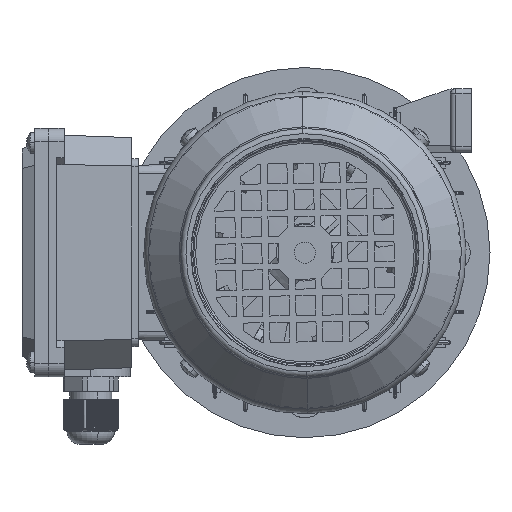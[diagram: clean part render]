
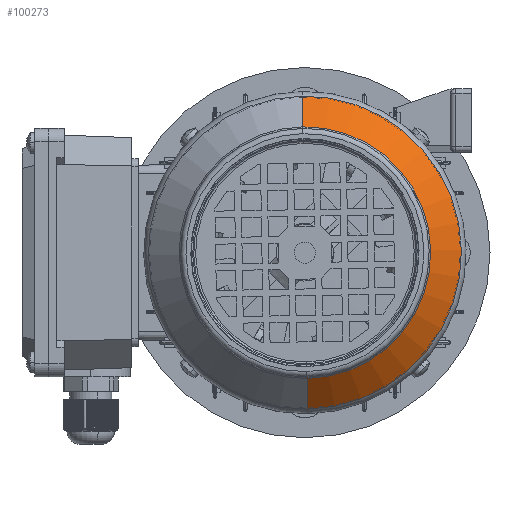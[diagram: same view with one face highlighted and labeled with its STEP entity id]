
A CAD part, left-side view. The second image highlights one B-rep face of the part: STEP entity #100273.
In plain terms, the highlighted conical face has half-angle 45 degrees and reference radius 47.586 mm.
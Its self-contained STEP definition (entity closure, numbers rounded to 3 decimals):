
#205 = ORIENTED_EDGE ( 'NONE', *, *, #122915, .T. ) ;
#2655 = DIRECTION ( 'NONE',  ( -0.707, 0., -0.707 ) ) ;
#5573 = CARTESIAN_POINT ( 'NONE',  ( 96.807, 0., -59.193 ) ) ;
#11064 = AXIS2_PLACEMENT_3D ( 'NONE', #106114, #93436, #80772 ) ;
#12087 = VERTEX_POINT ( 'NONE', #96818 ) ;
#15311 = CARTESIAN_POINT ( 'NONE',  ( 108.414, 0., -47.586 ) ) ;
#16189 = EDGE_LOOP ( 'NONE', ( #106566, #205, #96790, #55704 ) ) ;
#21759 = LINE ( 'NONE', #107351, #41678 ) ;
#21761 = VECTOR ( 'NONE', #2655, 1000. ) ;
#22283 = EDGE_CURVE ( 'NONE', #101060, #56703, #21759, .T. ) ;
#24045 = AXIS2_PLACEMENT_3D ( 'NONE', #98955, #86307, #73629 ) ;
#27182 = EDGE_CURVE ( 'NONE', #77855, #56703, #115337, .T. ) ;
#27971 = LINE ( 'NONE', #15311, #21761 ) ;
#40007 = FACE_OUTER_BOUND ( 'NONE', #16189, .T. ) ;
#41678 = VECTOR ( 'NONE', #94680, 1000. ) ;
#49571 = EDGE_CURVE ( 'NONE', #12087, #77855, #27971, .T. ) ;
#52295 = CONICAL_SURFACE ( 'NONE', #24045, 47.586, 0.785 ) ;
#55704 = ORIENTED_EDGE ( 'NONE', *, *, #27182, .F. ) ;
#56703 = VERTEX_POINT ( 'NONE', #57261 ) ;
#57261 = CARTESIAN_POINT ( 'NONE',  ( 96.807, 0., 59.193 ) ) ;
#73629 = DIRECTION ( 'NONE',  ( 0., 0., 1. ) ) ;
#73861 = DIRECTION ( 'NONE',  ( 0., 0., 1. ) ) ;
#77855 = VERTEX_POINT ( 'NONE', #5573 ) ;
#79644 = AXIS2_PLACEMENT_3D ( 'NONE', #111806, #86537, #73861 ) ;
#80772 = DIRECTION ( 'NONE',  ( 0., 0., 1. ) ) ;
#86307 = DIRECTION ( 'NONE',  ( -1., 0., 0. ) ) ;
#86537 = DIRECTION ( 'NONE',  ( -1., 0., 0. ) ) ;
#87519 = CARTESIAN_POINT ( 'NONE',  ( 108.414, 0., 47.586 ) ) ;
#93436 = DIRECTION ( 'NONE',  ( -1., 0., 0. ) ) ;
#94186 = CIRCLE ( 'NONE', #79644, 47.586 ) ;
#94680 = DIRECTION ( 'NONE',  ( -0.707, 0., 0.707 ) ) ;
#96790 = ORIENTED_EDGE ( 'NONE', *, *, #22283, .T. ) ;
#96818 = CARTESIAN_POINT ( 'NONE',  ( 108.414, 0., -47.586 ) ) ;
#98955 = CARTESIAN_POINT ( 'NONE',  ( 108.414, 0., 0. ) ) ;
#100273 = ADVANCED_FACE ( 'NONE', ( #40007 ), #52295, .T. ) ;
#101060 = VERTEX_POINT ( 'NONE', #87519 ) ;
#106114 = CARTESIAN_POINT ( 'NONE',  ( 96.807, 0., 0. ) ) ;
#106566 = ORIENTED_EDGE ( 'NONE', *, *, #49571, .F. ) ;
#107351 = CARTESIAN_POINT ( 'NONE',  ( 108.414, 0., 47.586 ) ) ;
#111806 = CARTESIAN_POINT ( 'NONE',  ( 108.414, 0., 0. ) ) ;
#115337 = CIRCLE ( 'NONE', #11064, 59.193 ) ;
#122915 = EDGE_CURVE ( 'NONE', #12087, #101060, #94186, .T. ) ;
